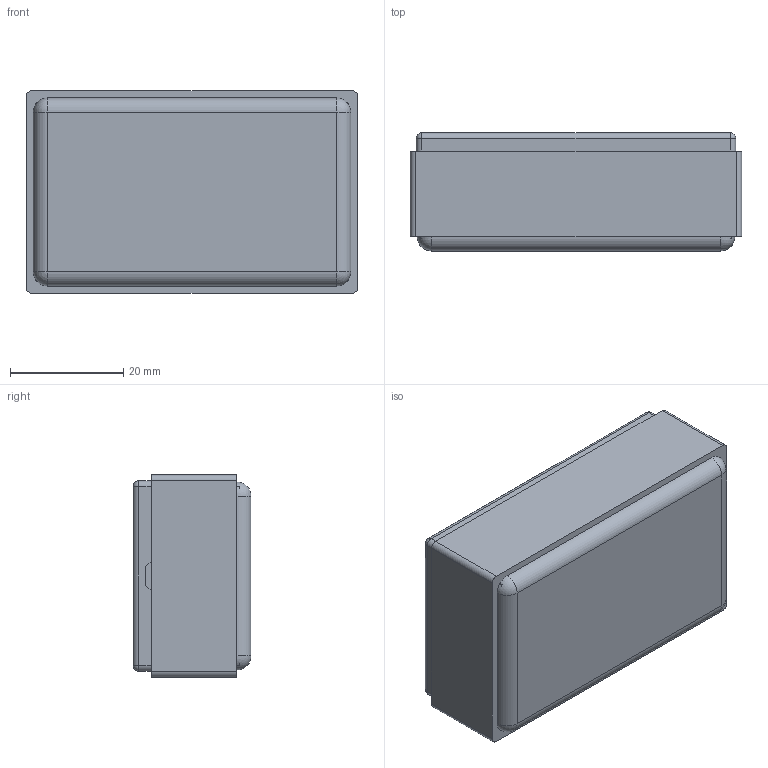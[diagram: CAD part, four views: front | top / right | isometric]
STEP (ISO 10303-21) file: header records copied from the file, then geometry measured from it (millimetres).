
FILE_DESCRIPTION (( 'STEP AP214' ), '1' );
FILE_NAME ('Conjunt PP56.STEP', '2016-09-12T18:44:40', ( 'aaa' ), ( '' ), 'SwSTEP 2.0', 'SolidWorks 2013', '' );
FILE_SCHEMA (( 'AUTOMOTIVE_DESIGN' ));
Length unit declared in the file: millimetre
Products named in the file (4): Conjunt PP56; Cuerpo PP56; Tapa PP56; Cargol 2,1x6,5 PP56
Assembly tree (3 placements, depth 2):
  Conjunt PP56
    Cuerpo PP56
    Tapa PP56
    Cargol 2,1x6,5 PP56
Bounding box: 58.5 x 20.8 x 35.7 mm (x, y, z)
Volume: 14034 mm3; surface area: 16394.7 mm2
Topology: 3 solids, 3 shells, 133 faces, 302 edges, 177 vertices
Faces by surface type: plane 53, cone 38, cylinder 34, sphere 8
Entity records: 3764 total; most frequent: DIRECTION 678, CARTESIAN_POINT 608, ORIENTED_EDGE 584, EDGE_CURVE 292, AXIS2_PLACEMENT_3D 247, LINE 184, VECTOR 184, VERTEX_POINT 177
